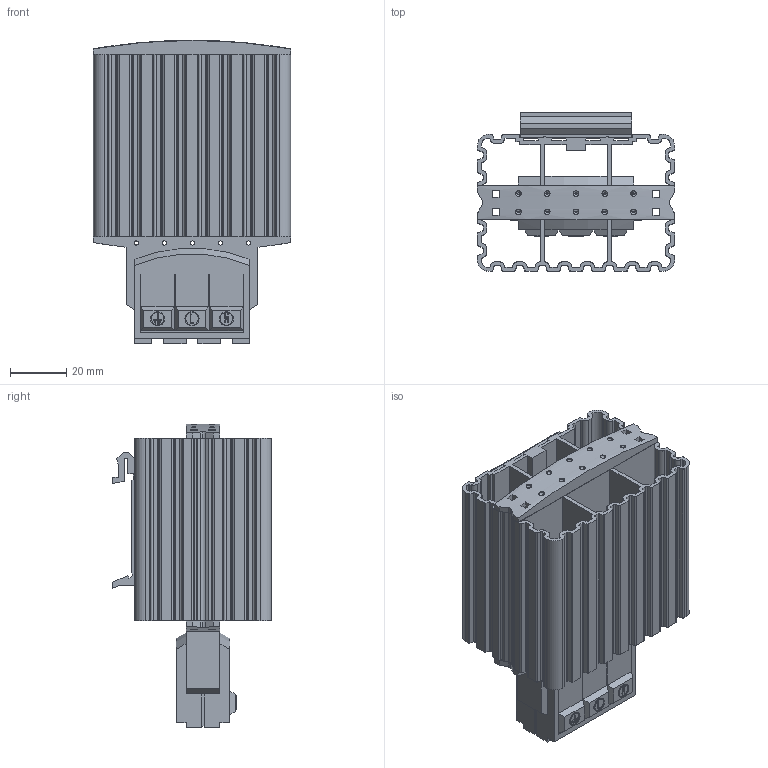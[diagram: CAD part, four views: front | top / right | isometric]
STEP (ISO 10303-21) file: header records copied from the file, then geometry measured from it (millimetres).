
FILE_DESCRIPTION (( 'STEP AP203' ), '1' );
FILE_NAME ('HG140-30W °×.STEP', '2026-01-14T05:19:08', ( 'PC' ), ( 'Microsoft' ), 'SwSTEP 2.0', 'SolidWorks 2024', '' );
FILE_SCHEMA (( 'CONFIG_CONTROL_DESIGN' ));
Length unit declared in the file: millimetre
Products named in the file (1): HG140-30W  白
Bounding box: 70.2 x 56.5 x 108 mm (x, y, z)
Volume: 117687 mm3; surface area: 75093.2 mm2
Topology: 4 solids, 4 shells, 691 faces, 1949 edges, 1290 vertices
Faces by surface type: plane 461, cylinder 198, bspline 30, cone 2
Entity records: 24426 total; most frequent: CARTESIAN_POINT 6359, ORIENTED_EDGE 3898, DIRECTION 3525, EDGE_CURVE 1949, LINE 1461, VECTOR 1461, VERTEX_POINT 1290, AXIS2_PLACEMENT_3D 1032
